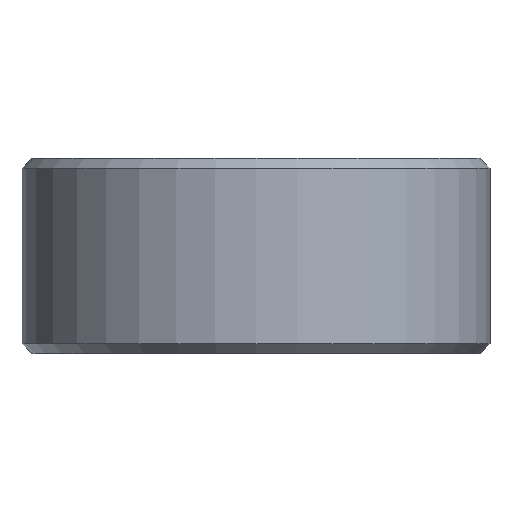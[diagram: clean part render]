
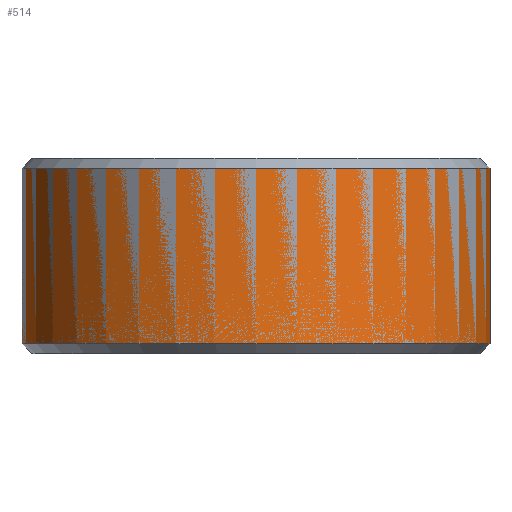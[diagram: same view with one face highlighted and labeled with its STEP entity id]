
A CAD part, front view. The second image highlights one B-rep face of the part: STEP entity #514.
In plain terms, the highlighted cylindrical face has radius 3 mm (diameter 6 mm), a full revolution.
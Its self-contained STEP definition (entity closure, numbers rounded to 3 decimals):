
#72=CYLINDRICAL_SURFACE('',#590,3.);
#88=FACE_OUTER_BOUND('',#128,.T.);
#128=EDGE_LOOP('',(#394,#395,#396,#397,#398));
#177=LINE('',#884,#196);
#196=VECTOR('',#699,3.);
#211=CIRCLE('',#576,3.);
#212=CIRCLE('',#577,3.);
#214=CIRCLE('',#580,3.);
#257=VERTEX_POINT('',#856);
#258=VERTEX_POINT('',#857);
#260=VERTEX_POINT('',#864);
#308=EDGE_CURVE('',#257,#258,#211,.T.);
#309=EDGE_CURVE('',#258,#257,#212,.T.);
#312=EDGE_CURVE('',#260,#260,#214,.T.);
#322=EDGE_CURVE('',#257,#260,#177,.T.);
#394=ORIENTED_EDGE('',*,*,#308,.T.);
#395=ORIENTED_EDGE('',*,*,#309,.T.);
#396=ORIENTED_EDGE('',*,*,#322,.T.);
#397=ORIENTED_EDGE('',*,*,#312,.T.);
#398=ORIENTED_EDGE('',*,*,#322,.F.);
#514=ADVANCED_FACE('',(#88),#72,.T.);
#576=AXIS2_PLACEMENT_3D('',#858,#665,#666);
#577=AXIS2_PLACEMENT_3D('',#859,#667,#668);
#580=AXIS2_PLACEMENT_3D('',#865,#674,#675);
#590=AXIS2_PLACEMENT_3D('',#883,#697,#698);
#665=DIRECTION('center_axis',(0.,0.,-1.));
#666=DIRECTION('ref_axis',(-1.,0.,0.));
#667=DIRECTION('center_axis',(0.,0.,-1.));
#668=DIRECTION('ref_axis',(-1.,0.,0.));
#674=DIRECTION('center_axis',(0.,0.,1.));
#675=DIRECTION('ref_axis',(1.,0.,0.));
#697=DIRECTION('center_axis',(0.,0.,1.));
#698=DIRECTION('ref_axis',(1.,0.,0.));
#699=DIRECTION('',(0.,0.,-1.));
#856=CARTESIAN_POINT('',(-3.,0.,1.125));
#857=CARTESIAN_POINT('',(3.,0.,1.125));
#858=CARTESIAN_POINT('Origin',(0.,0.,1.125));
#859=CARTESIAN_POINT('Origin',(0.,0.,1.125));
#864=CARTESIAN_POINT('',(-3.,0.,-1.125));
#865=CARTESIAN_POINT('Origin',(0.,0.,-1.125));
#883=CARTESIAN_POINT('Origin',(0.,0.,1.25));
#884=CARTESIAN_POINT('',(-3.,0.,1.25));
